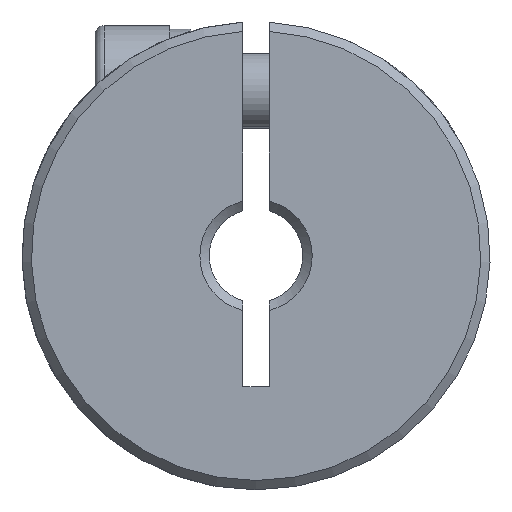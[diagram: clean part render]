
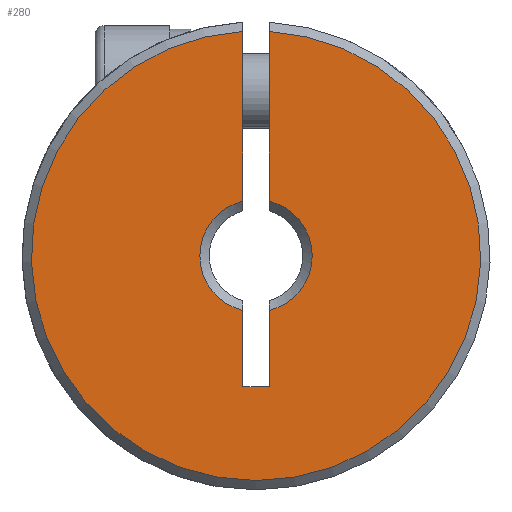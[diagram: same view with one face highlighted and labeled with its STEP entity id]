
A CAD part, front view. The second image highlights one B-rep face of the part: STEP entity #280.
In plain terms, the highlighted planar face has unit normal (0, -1, 0).
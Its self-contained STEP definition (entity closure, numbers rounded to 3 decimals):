
#16 = DIRECTION ( 'NONE',  ( 0., 0., 1. ) ) ;
#70 = VERTEX_POINT ( 'NONE', #2620 ) ;
#90 = EDGE_CURVE ( 'NONE', #2934, #2487, #1110, .T. ) ;
#199 = CIRCLE ( 'NONE', #2513, 3. ) ;
#250 = EDGE_CURVE ( 'NONE', #320, #2804, #1028, .T. ) ;
#280 = ADVANCED_FACE ( 'NONE', ( #1520 ), #2360, .F. ) ;
#320 = VERTEX_POINT ( 'NONE', #1276 ) ;
#338 = VERTEX_POINT ( 'NONE', #1874 ) ;
#362 = EDGE_CURVE ( 'NONE', #70, #2487, #409, .T. ) ;
#409 = LINE ( 'NONE', #2406, #1074 ) ;
#442 = LINE ( 'NONE', #1157, #768 ) ;
#465 = EDGE_CURVE ( 'NONE', #2830, #338, #1203, .T. ) ;
#561 = DIRECTION ( 'NONE',  ( 0., 0., 1. ) ) ;
#570 = VECTOR ( 'NONE', #3446, 1000. ) ;
#621 = CARTESIAN_POINT ( 'NONE',  ( -0.7, 0.25, -7. ) ) ;
#768 = VECTOR ( 'NONE', #1412, 1000. ) ;
#787 = DIRECTION ( 'NONE',  ( 0., 1., 0. ) ) ;
#860 = DIRECTION ( 'NONE',  ( 0., 0., -1. ) ) ;
#864 = DIRECTION ( 'NONE',  ( 1., 0., 0. ) ) ;
#967 = CARTESIAN_POINT ( 'NONE',  ( -0.7, 0.25, -7. ) ) ;
#977 = ORIENTED_EDGE ( 'NONE', *, *, #362, .F. ) ;
#1028 = LINE ( 'NONE', #1517, #570 ) ;
#1074 = VECTOR ( 'NONE', #561, 1000. ) ;
#1081 = ORIENTED_EDGE ( 'NONE', *, *, #250, .F. ) ;
#1110 = CIRCLE ( 'NONE', #1497, 12. ) ;
#1157 = CARTESIAN_POINT ( 'NONE',  ( -0.7, 0.25, -7. ) ) ;
#1169 = DIRECTION ( 'NONE',  ( 0., 1., 0. ) ) ;
#1185 = ORIENTED_EDGE ( 'NONE', *, *, #465, .T. ) ;
#1203 = CIRCLE ( 'NONE', #1250, 3. ) ;
#1229 = CARTESIAN_POINT ( 'NONE',  ( 0.7, 0.25, -2.917 ) ) ;
#1250 = AXIS2_PLACEMENT_3D ( 'NONE', #2729, #1169, #1666 ) ;
#1276 = CARTESIAN_POINT ( 'NONE',  ( 0.7, 0.25, -7. ) ) ;
#1352 = ORIENTED_EDGE ( 'NONE', *, *, #1365, .T. ) ;
#1353 = DIRECTION ( 'NONE',  ( 0., 0., 1. ) ) ;
#1365 = EDGE_CURVE ( 'NONE', #70, #2804, #199, .T. ) ;
#1412 = DIRECTION ( 'NONE',  ( 0., 0., -1. ) ) ;
#1421 = CARTESIAN_POINT ( 'NONE',  ( -0.7, 0.25, 11.98 ) ) ;
#1497 = AXIS2_PLACEMENT_3D ( 'NONE', #3211, #1603, #16 ) ;
#1517 = CARTESIAN_POINT ( 'NONE',  ( 0.7, 0.25, -7. ) ) ;
#1520 = FACE_OUTER_BOUND ( 'NONE', #3108, .T. ) ;
#1603 = DIRECTION ( 'NONE',  ( 0., -1., 0. ) ) ;
#1642 = ORIENTED_EDGE ( 'NONE', *, *, #1660, .F. ) ;
#1660 = EDGE_CURVE ( 'NONE', #2279, #320, #2825, .T. ) ;
#1666 = DIRECTION ( 'NONE',  ( 0., 0., 1. ) ) ;
#1859 = DIRECTION ( 'NONE',  ( 0., 1., 0. ) ) ;
#1874 = CARTESIAN_POINT ( 'NONE',  ( -0.7, 0.25, 2.917 ) ) ;
#1933 = CARTESIAN_POINT ( 'NONE',  ( 0.7, 0.25, -7. ) ) ;
#1948 = ORIENTED_EDGE ( 'NONE', *, *, #1980, .F. ) ;
#1980 = EDGE_CURVE ( 'NONE', #2830, #2279, #2246, .T. ) ;
#2031 = EDGE_CURVE ( 'NONE', #2934, #338, #442, .T. ) ;
#2054 = DIRECTION ( 'NONE',  ( 0., 0., 1. ) ) ;
#2088 = VECTOR ( 'NONE', #864, 1000. ) ;
#2176 = ORIENTED_EDGE ( 'NONE', *, *, #2031, .F. ) ;
#2246 = LINE ( 'NONE', #621, #3370 ) ;
#2279 = VERTEX_POINT ( 'NONE', #967 ) ;
#2301 = CARTESIAN_POINT ( 'NONE',  ( -0.7, 0.25, -2.917 ) ) ;
#2337 = CARTESIAN_POINT ( 'NONE',  ( 12.5, 0.25, -50. ) ) ;
#2360 = PLANE ( 'NONE',  #3047 ) ;
#2406 = CARTESIAN_POINT ( 'NONE',  ( 0.7, 0.25, -7. ) ) ;
#2487 = VERTEX_POINT ( 'NONE', #2838 ) ;
#2513 = AXIS2_PLACEMENT_3D ( 'NONE', #2947, #1859, #1353 ) ;
#2620 = CARTESIAN_POINT ( 'NONE',  ( 0.7, 0.25, 2.917 ) ) ;
#2729 = CARTESIAN_POINT ( 'NONE',  ( 0., 0.25, 0. ) ) ;
#2804 = VERTEX_POINT ( 'NONE', #1229 ) ;
#2825 = LINE ( 'NONE', #1933, #2088 ) ;
#2830 = VERTEX_POINT ( 'NONE', #2301 ) ;
#2838 = CARTESIAN_POINT ( 'NONE',  ( 0.7, 0.25, 11.98 ) ) ;
#2934 = VERTEX_POINT ( 'NONE', #1421 ) ;
#2947 = CARTESIAN_POINT ( 'NONE',  ( 0., 0.25, 0. ) ) ;
#3047 = AXIS2_PLACEMENT_3D ( 'NONE', #2337, #787, #2054 ) ;
#3108 = EDGE_LOOP ( 'NONE', ( #977, #1352, #1081, #1642, #1948, #1185, #2176, #3235 ) ) ;
#3211 = CARTESIAN_POINT ( 'NONE',  ( 0., 0.25, 0. ) ) ;
#3235 = ORIENTED_EDGE ( 'NONE', *, *, #90, .T. ) ;
#3370 = VECTOR ( 'NONE', #860, 1000. ) ;
#3446 = DIRECTION ( 'NONE',  ( 0., 0., 1. ) ) ;
